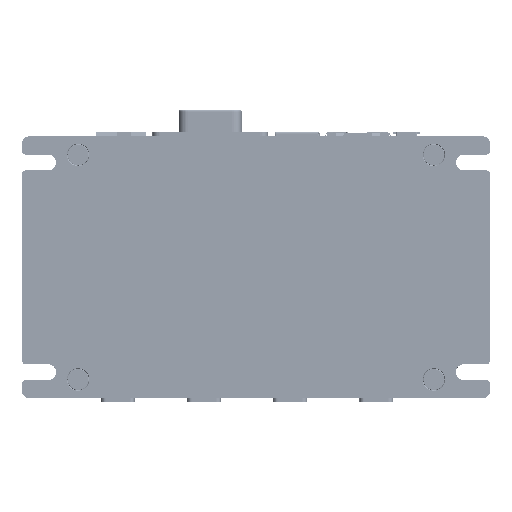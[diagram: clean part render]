
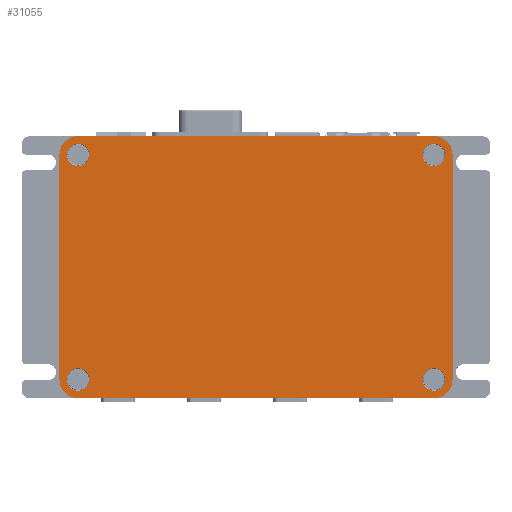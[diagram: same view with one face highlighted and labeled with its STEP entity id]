
A CAD part, top view. The second image highlights one B-rep face of the part: STEP entity #31055.
In plain terms, the highlighted planar face has unit normal (0, 0, 1).
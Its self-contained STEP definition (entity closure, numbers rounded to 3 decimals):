
#30510 = VERTEX_POINT('',#30511);
#30511 = CARTESIAN_POINT('',(120.,28.,
    18.));
#30517 = EDGE_CURVE('',#30510,#30518,#30520,.T.);
#30518 = VERTEX_POINT('',#30519);
#30519 = CARTESIAN_POINT('',(120.,22.,
    18.));
#30520 = CIRCLE('',#30521,3.);
#30521 = AXIS2_PLACEMENT_3D('',#30522,#30523,#30524);
#30522 = CARTESIAN_POINT('',(120.,25.,
    18.));
#30523 = DIRECTION('',(0.,0.,-1.));
#30524 = DIRECTION('',(0.,1.,0.));
#30552 = VERTEX_POINT('',#30553);
#30553 = CARTESIAN_POINT('',(25.,28.,
    18.));
#30559 = EDGE_CURVE('',#30552,#30560,#30562,.T.);
#30560 = VERTEX_POINT('',#30561);
#30561 = CARTESIAN_POINT('',(25.,22.,
    18.));
#30562 = CIRCLE('',#30563,3.);
#30563 = AXIS2_PLACEMENT_3D('',#30564,#30565,#30566);
#30564 = CARTESIAN_POINT('',(25.,25.,
    18.));
#30565 = DIRECTION('',(0.,0.,-1.));
#30566 = DIRECTION('',(0.,1.,0.));
#30594 = VERTEX_POINT('',#30595);
#30595 = CARTESIAN_POINT('',(120.,88.,
    18.));
#30601 = EDGE_CURVE('',#30594,#30602,#30604,.T.);
#30602 = VERTEX_POINT('',#30603);
#30603 = CARTESIAN_POINT('',(120.,82.,
    18.));
#30604 = CIRCLE('',#30605,3.);
#30605 = AXIS2_PLACEMENT_3D('',#30606,#30607,#30608);
#30606 = CARTESIAN_POINT('',(120.,85.,
    18.));
#30607 = DIRECTION('',(0.,0.,-1.));
#30608 = DIRECTION('',(0.,1.,0.));
#30636 = VERTEX_POINT('',#30637);
#30637 = CARTESIAN_POINT('',(25.,88.,
    18.));
#30643 = EDGE_CURVE('',#30636,#30644,#30646,.T.);
#30644 = VERTEX_POINT('',#30645);
#30645 = CARTESIAN_POINT('',(25.,82.,
    18.));
#30646 = CIRCLE('',#30647,3.);
#30647 = AXIS2_PLACEMENT_3D('',#30648,#30649,#30650);
#30648 = CARTESIAN_POINT('',(25.,85.,
    18.));
#30649 = DIRECTION('',(0.,0.,-1.));
#30650 = DIRECTION('',(0.,1.,0.));
#30815 = VERTEX_POINT('',#30816);
#30816 = CARTESIAN_POINT('',(120.,90.,
    18.));
#30822 = EDGE_CURVE('',#30823,#30815,#30825,.T.);
#30823 = VERTEX_POINT('',#30824);
#30824 = CARTESIAN_POINT('',(125.,85.,
    18.));
#30825 = CIRCLE('',#30826,5.);
#30826 = AXIS2_PLACEMENT_3D('',#30827,#30828,#30829);
#30827 = CARTESIAN_POINT('',(120.,85.,
    18.));
#30828 = DIRECTION('',(0.,0.,1.));
#30829 = DIRECTION('',(0.,1.,0.));
#30854 = VERTEX_POINT('',#30855);
#30855 = CARTESIAN_POINT('',(25.,90.,
    18.));
#30861 = EDGE_CURVE('',#30815,#30854,#30862,.T.);
#30862 = LINE('',#30863,#30864);
#30863 = CARTESIAN_POINT('',(120.,90.,
    18.));
#30864 = VECTOR('',#30865,1.);
#30865 = DIRECTION('',(-1.,0.,0.));
#30886 = VERTEX_POINT('',#30887);
#30887 = CARTESIAN_POINT('',(20.,85.,
    18.));
#30893 = EDGE_CURVE('',#30854,#30886,#30894,.T.);
#30894 = CIRCLE('',#30895,5.);
#30895 = AXIS2_PLACEMENT_3D('',#30896,#30897,#30898);
#30896 = CARTESIAN_POINT('',(25.,85.,
    18.));
#30897 = DIRECTION('',(0.,0.,1.));
#30898 = DIRECTION('',(0.,1.,0.));
#30918 = VERTEX_POINT('',#30919);
#30919 = CARTESIAN_POINT('',(20.,25.,
    18.));
#30925 = EDGE_CURVE('',#30886,#30918,#30926,.T.);
#30926 = LINE('',#30927,#30928);
#30927 = CARTESIAN_POINT('',(20.,25.,
    18.));
#30928 = VECTOR('',#30929,1.);
#30929 = DIRECTION('',(0.,-1.,0.));
#30950 = VERTEX_POINT('',#30951);
#30951 = CARTESIAN_POINT('',(25.,20.,
    18.));
#30957 = EDGE_CURVE('',#30918,#30950,#30958,.T.);
#30958 = CIRCLE('',#30959,5.);
#30959 = AXIS2_PLACEMENT_3D('',#30960,#30961,#30962);
#30960 = CARTESIAN_POINT('',(25.,25.,
    18.));
#30961 = DIRECTION('',(0.,0.,1.));
#30962 = DIRECTION('',(0.,-1.,0.));
#30982 = VERTEX_POINT('',#30983);
#30983 = CARTESIAN_POINT('',(120.,20.,
    18.));
#30989 = EDGE_CURVE('',#30950,#30982,#30990,.T.);
#30990 = LINE('',#30991,#30992);
#30991 = CARTESIAN_POINT('',(120.,20.,
    18.));
#30992 = VECTOR('',#30993,1.);
#30993 = DIRECTION('',(1.,0.,0.));
#31014 = VERTEX_POINT('',#31015);
#31015 = CARTESIAN_POINT('',(125.,25.,
    18.));
#31021 = EDGE_CURVE('',#30982,#31014,#31022,.T.);
#31022 = CIRCLE('',#31023,5.);
#31023 = AXIS2_PLACEMENT_3D('',#31024,#31025,#31026);
#31024 = CARTESIAN_POINT('',(120.,25.,
    18.));
#31025 = DIRECTION('',(0.,0.,1.));
#31026 = DIRECTION('',(0.,1.,0.));
#31044 = EDGE_CURVE('',#31014,#30823,#31045,.T.);
#31045 = LINE('',#31046,#31047);
#31046 = CARTESIAN_POINT('',(125.,85.,
    18.));
#31047 = VECTOR('',#31048,1.);
#31048 = DIRECTION('',(0.,1.,0.));
#31055 = ADVANCED_FACE('',(#31056,#31066,#31076,#31086,#31096),#31106,
  .T.);
#31056 = FACE_BOUND('',#31057,.T.);
#31057 = EDGE_LOOP('',(#31058,#31059));
#31058 = ORIENTED_EDGE('',*,*,#30643,.T.);
#31059 = ORIENTED_EDGE('',*,*,#31060,.T.);
#31060 = EDGE_CURVE('',#30644,#30636,#31061,.T.);
#31061 = CIRCLE('',#31062,3.);
#31062 = AXIS2_PLACEMENT_3D('',#31063,#31064,#31065);
#31063 = CARTESIAN_POINT('',(25.,85.,
    18.));
#31064 = DIRECTION('',(0.,0.,-1.));
#31065 = DIRECTION('',(0.,1.,0.));
#31066 = FACE_BOUND('',#31067,.T.);
#31067 = EDGE_LOOP('',(#31068,#31069));
#31068 = ORIENTED_EDGE('',*,*,#30601,.T.);
#31069 = ORIENTED_EDGE('',*,*,#31070,.T.);
#31070 = EDGE_CURVE('',#30602,#30594,#31071,.T.);
#31071 = CIRCLE('',#31072,3.);
#31072 = AXIS2_PLACEMENT_3D('',#31073,#31074,#31075);
#31073 = CARTESIAN_POINT('',(120.,85.,
    18.));
#31074 = DIRECTION('',(0.,0.,-1.));
#31075 = DIRECTION('',(0.,1.,0.));
#31076 = FACE_BOUND('',#31077,.T.);
#31077 = EDGE_LOOP('',(#31078,#31079));
#31078 = ORIENTED_EDGE('',*,*,#30559,.T.);
#31079 = ORIENTED_EDGE('',*,*,#31080,.T.);
#31080 = EDGE_CURVE('',#30560,#30552,#31081,.T.);
#31081 = CIRCLE('',#31082,3.);
#31082 = AXIS2_PLACEMENT_3D('',#31083,#31084,#31085);
#31083 = CARTESIAN_POINT('',(25.,25.,
    18.));
#31084 = DIRECTION('',(0.,0.,-1.));
#31085 = DIRECTION('',(0.,1.,0.));
#31086 = FACE_BOUND('',#31087,.T.);
#31087 = EDGE_LOOP('',(#31088,#31089));
#31088 = ORIENTED_EDGE('',*,*,#30517,.T.);
#31089 = ORIENTED_EDGE('',*,*,#31090,.T.);
#31090 = EDGE_CURVE('',#30518,#30510,#31091,.T.);
#31091 = CIRCLE('',#31092,3.);
#31092 = AXIS2_PLACEMENT_3D('',#31093,#31094,#31095);
#31093 = CARTESIAN_POINT('',(120.,25.,
    18.));
#31094 = DIRECTION('',(0.,0.,-1.));
#31095 = DIRECTION('',(0.,1.,0.));
#31096 = FACE_BOUND('',#31097,.T.);
#31097 = EDGE_LOOP('',(#31098,#31099,#31100,#31101,#31102,#31103,#31104,
    #31105));
#31098 = ORIENTED_EDGE('',*,*,#30822,.T.);
#31099 = ORIENTED_EDGE('',*,*,#30861,.T.);
#31100 = ORIENTED_EDGE('',*,*,#30893,.T.);
#31101 = ORIENTED_EDGE('',*,*,#30925,.T.);
#31102 = ORIENTED_EDGE('',*,*,#30957,.T.);
#31103 = ORIENTED_EDGE('',*,*,#30989,.T.);
#31104 = ORIENTED_EDGE('',*,*,#31021,.T.);
#31105 = ORIENTED_EDGE('',*,*,#31044,.T.);
#31106 = PLANE('',#31107);
#31107 = AXIS2_PLACEMENT_3D('',#31108,#31109,#31110);
#31108 = CARTESIAN_POINT('',(120.,85.,
    18.));
#31109 = DIRECTION('',(0.,0.,1.));
#31110 = DIRECTION('',(0.,1.,0.));
